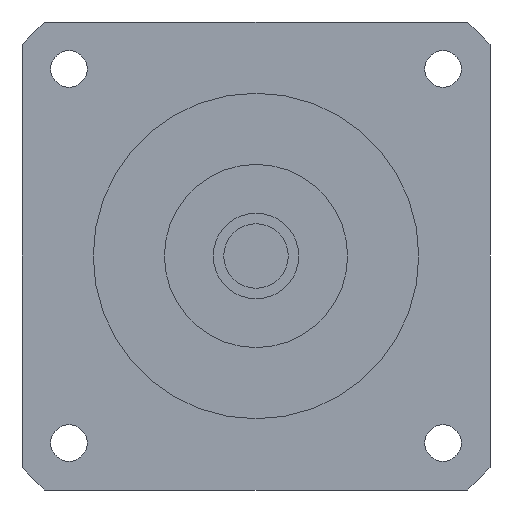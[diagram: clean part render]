
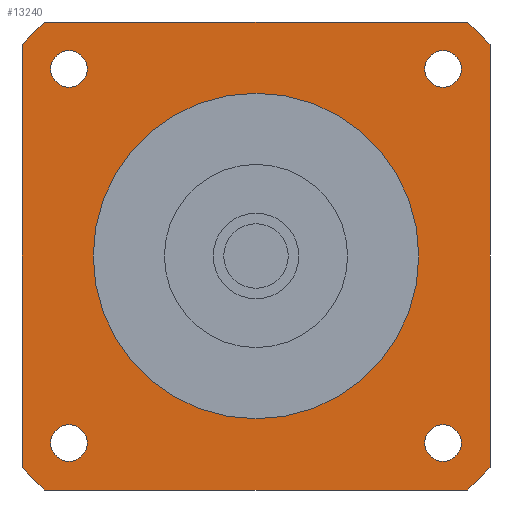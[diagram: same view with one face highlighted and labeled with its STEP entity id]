
A CAD part, left-side view. The second image highlights one B-rep face of the part: STEP entity #13240.
In plain terms, the highlighted planar face has unit normal (-1, 0, 0) as drawn and (0, 0, -1) by its records, which use the part's own axes.
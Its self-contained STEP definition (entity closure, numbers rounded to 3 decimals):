
#8660=CARTESIAN_POINT('',(57.5,-51.962,-43.2));
#8670=VERTEX_POINT('',#8660);
#8700=CARTESIAN_POINT('',(0.,0.,
-43.2));
#8710=DIRECTION('',(0.,0.,-1.));
#8720=DIRECTION('',(-1.,0.,0.));
#8730=AXIS2_PLACEMENT_3D('',#8700,#8710,#8720);
#8740=CIRCLE('',#8730,77.5);
#8750=CARTESIAN_POINT('',(51.962,-57.5,-43.2));
#8760=VERTEX_POINT('',#8750);
#8770=EDGE_CURVE('',#8670,#8760,#8740,.T.);
#9080=CARTESIAN_POINT('',(-51.962,57.5,-43.2));
#9090=VERTEX_POINT('',#9080);
#9250=CARTESIAN_POINT('',(-57.5,51.962,-43.2));
#9260=VERTEX_POINT('',#9250);
#9290=CARTESIAN_POINT('',(0.,0.,
-43.2));
#9300=DIRECTION('',(0.,0.,-1.));
#9310=DIRECTION('',(-1.,0.,0.));
#9320=AXIS2_PLACEMENT_3D('',#9290,#9300,#9310);
#9330=CIRCLE('',#9320,77.5);
#9340=EDGE_CURVE('',#9260,#9090,#9330,.T.);
#11810=CARTESIAN_POINT('',(50.462,-45.962,-43.2));
#11820=VERTEX_POINT('',#11810);
#11850=CARTESIAN_POINT('',(45.962,-45.962,-43.2));
#11860=DIRECTION('',(0.,0.,-1.));
#11870=DIRECTION('',(1.,0.,0.));
#11880=AXIS2_PLACEMENT_3D('',#11850,#11860,#11870);
#11890=CIRCLE('',#11880,4.5);
#11900=CARTESIAN_POINT('',(41.462,-45.962,-43.2));
#11910=VERTEX_POINT('',#11900);
#11920=EDGE_CURVE('',#11910,#11820,#11890,.T.);
#12040=CARTESIAN_POINT('',(0.,0.,
-43.2));
#12050=DIRECTION('',(0.,0.,-1.));
#12060=DIRECTION('',(1.,0.,0.));
#12070=AXIS2_PLACEMENT_3D('',#12040,#12050,#12060);
#12080=PLANE('',#12070);
#12090=CARTESIAN_POINT('',(45.962,45.962,-43.2));
#12100=DIRECTION('',(0.,0.,-1.));
#12110=DIRECTION('',(1.,0.,0.));
#12120=AXIS2_PLACEMENT_3D('',#12090,#12100,#12110);
#12130=CIRCLE('',#12120,4.5);
#12140=CARTESIAN_POINT('',(50.462,45.962,-43.2));
#12150=VERTEX_POINT('',#12140);
#12160=CARTESIAN_POINT('',(41.462,45.962,-43.2));
#12170=VERTEX_POINT('',#12160);
#12180=EDGE_CURVE('',#12150,#12170,#12130,.T.);
#12190=ORIENTED_EDGE('',*,*,#12180,.F.);
#12200=EDGE_CURVE('',#12170,#12150,#12130,.T.);
#12210=ORIENTED_EDGE('',*,*,#12200,.F.);
#12220=EDGE_LOOP('',(#12210,#12190));
#12230=FACE_BOUND('',#12220,.T.);
#12240=CARTESIAN_POINT('',(-45.962,45.962,-43.2));
#12250=DIRECTION('',(0.,0.,-1.));
#12260=DIRECTION('',(1.,0.,0.));
#12270=AXIS2_PLACEMENT_3D('',#12240,#12250,#12260);
#12280=CIRCLE('',#12270,4.5);
#12290=CARTESIAN_POINT('',(-41.462,45.962,-43.2));
#12300=VERTEX_POINT('',#12290);
#12310=CARTESIAN_POINT('',(-50.462,45.962,-43.2));
#12320=VERTEX_POINT('',#12310);
#12330=EDGE_CURVE('',#12300,#12320,#12280,.T.);
#12340=ORIENTED_EDGE('',*,*,#12330,.F.);
#12350=EDGE_CURVE('',#12320,#12300,#12280,.T.);
#12360=ORIENTED_EDGE('',*,*,#12350,.F.);
#12370=EDGE_LOOP('',(#12360,#12340));
#12380=FACE_BOUND('',#12370,.T.);
#12390=CARTESIAN_POINT('',(0.,0.,
-43.2));
#12400=DIRECTION('',(0.,0.,1.));
#12410=DIRECTION('',(1.,0.,0.));
#12420=AXIS2_PLACEMENT_3D('',#12390,#12400,#12410);
#12430=CIRCLE('',#12420,40.);
#12440=CARTESIAN_POINT('',(40.,0.,-43.2));
#12450=VERTEX_POINT('',#12440);
#12460=CARTESIAN_POINT('',(-40.,0.,-43.2));
#12470=VERTEX_POINT('',#12460);
#12480=EDGE_CURVE('',#12450,#12470,#12430,.T.);
#12490=ORIENTED_EDGE('',*,*,#12480,.T.);
#12500=EDGE_CURVE('',#12470,#12450,#12430,.T.);
#12510=ORIENTED_EDGE('',*,*,#12500,.T.);
#12520=EDGE_LOOP('',(#12510,#12490));
#12530=FACE_BOUND('',#12520,.T.);
#12540=CARTESIAN_POINT('',(-45.962,-45.962,-43.2));
#12550=DIRECTION('',(0.,0.,-1.));
#12560=DIRECTION('',(1.,0.,0.));
#12570=AXIS2_PLACEMENT_3D('',#12540,#12550,#12560);
#12580=CIRCLE('',#12570,4.5);
#12590=CARTESIAN_POINT('',(-41.462,-45.962,-43.2));
#12600=VERTEX_POINT('',#12590);
#12610=CARTESIAN_POINT('',(-50.462,-45.962,-43.2));
#12620=VERTEX_POINT('',#12610);
#12630=EDGE_CURVE('',#12600,#12620,#12580,.T.);
#12640=ORIENTED_EDGE('',*,*,#12630,.F.);
#12650=EDGE_CURVE('',#12620,#12600,#12580,.T.);
#12660=ORIENTED_EDGE('',*,*,#12650,.F.);
#12670=EDGE_LOOP('',(#12660,#12640));
#12680=FACE_BOUND('',#12670,.T.);
#12690=EDGE_CURVE('',#11820,#11910,#11890,.T.);
#12700=ORIENTED_EDGE('',*,*,#12690,.F.);
#12710=ORIENTED_EDGE('',*,*,#11920,.F.);
#12720=EDGE_LOOP('',(#12710,#12700));
#12730=FACE_BOUND('',#12720,.T.);
#12740=CARTESIAN_POINT('',(57.5,-57.5,-43.2));
#12750=DIRECTION('',(-1.,0.,0.));
#12760=VECTOR('',#12750,1000.);
#12770=LINE('',#12740,#12760);
#12780=CARTESIAN_POINT('',(-51.962,-57.5,-43.2));
#12790=VERTEX_POINT('',#12780);
#12800=EDGE_CURVE('',#8760,#12790,#12770,.T.);
#12810=ORIENTED_EDGE('',*,*,#12800,.T.);
#12820=ORIENTED_EDGE('',*,*,#8770,.T.);
#12830=CARTESIAN_POINT('',(57.5,57.5,-43.2));
#12840=DIRECTION('',(0.,-1.,0.));
#12850=VECTOR('',#12840,1000.);
#12860=LINE('',#12830,#12850);
#12870=CARTESIAN_POINT('',(57.5,51.962,-43.2));
#12880=VERTEX_POINT('',#12870);
#12890=EDGE_CURVE('',#12880,#8670,#12860,.T.);
#12900=ORIENTED_EDGE('',*,*,#12890,.T.);
#12910=CARTESIAN_POINT('',(0.,0.,
-43.2));
#12920=DIRECTION('',(0.,0.,-1.));
#12930=DIRECTION('',(-1.,0.,0.));
#12940=AXIS2_PLACEMENT_3D('',#12910,#12920,#12930);
#12950=CIRCLE('',#12940,77.5);
#12960=CARTESIAN_POINT('',(51.962,57.5,-43.2));
#12970=VERTEX_POINT('',#12960);
#12980=EDGE_CURVE('',#12970,#12880,#12950,.T.);
#12990=ORIENTED_EDGE('',*,*,#12980,.T.);
#13000=CARTESIAN_POINT('',(-57.5,57.5,-43.2));
#13010=DIRECTION('',(1.,0.,0.));
#13020=VECTOR('',#13010,1000.);
#13030=LINE('',#13000,#13020);
#13040=EDGE_CURVE('',#9090,#12970,#13030,.T.);
#13050=ORIENTED_EDGE('',*,*,#13040,.T.);
#13060=ORIENTED_EDGE('',*,*,#9340,.T.);
#13070=CARTESIAN_POINT('',(-57.5,-57.5,-43.2));
#13080=DIRECTION('',(0.,1.,0.));
#13090=VECTOR('',#13080,1000.);
#13100=LINE('',#13070,#13090);
#13110=CARTESIAN_POINT('',(-57.5,-51.962,-43.2));
#13120=VERTEX_POINT('',#13110);
#13130=EDGE_CURVE('',#13120,#9260,#13100,.T.);
#13140=ORIENTED_EDGE('',*,*,#13130,.T.);
#13150=CARTESIAN_POINT('',(0.,0.,
-43.2));
#13160=DIRECTION('',(0.,0.,-1.));
#13170=DIRECTION('',(-1.,0.,0.));
#13180=AXIS2_PLACEMENT_3D('',#13150,#13160,#13170);
#13190=CIRCLE('',#13180,77.5);
#13200=EDGE_CURVE('',#12790,#13120,#13190,.T.);
#13210=ORIENTED_EDGE('',*,*,#13200,.T.);
#13220=EDGE_LOOP('',(#13210,#13140,#13060,#13050,#12990,#12900,#12820,
#12810));
#13230=FACE_OUTER_BOUND('',#13220,.T.);
#13240=ADVANCED_FACE('',(#12230,#12380,#12530,#12680,#12730,#13230),
#12080,.T.);
